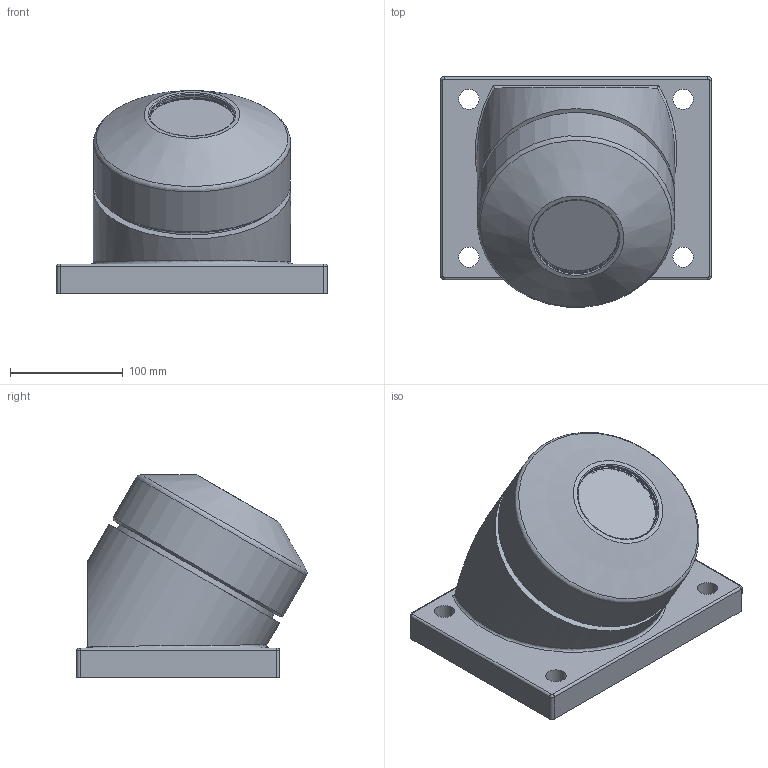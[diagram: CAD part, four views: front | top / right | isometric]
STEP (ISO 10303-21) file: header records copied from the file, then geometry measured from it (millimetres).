
FILE_DESCRIPTION(/* description */ (''),/* implementation_level */ '2;1');
FILE_NAME(/* name */ 'Z:\34-Tei\01-web 3Dデータ\SW車輪\SW-180-I.stp',/* time_stamp */ '2015-03-17T16:47:38+09:00',/* author */ ('yamaki'),/* organization */ (''),/* preprocessor_version */ 'ST-DEVELOPER v15.6',/* originating_system */ 'Autodesk Inventor 2015',/* authorisation */ '');
FILE_SCHEMA (('AUTOMOTIVE_DESIGN { 1 0 10303 214 3 1 1 }'));
Length unit declared in the file: centimetre
Products named in the file (1): SW-180-I
Bounding box: 240 x 204.54 x 179.93 mm (x, y, z)
Volume: 3052767.3 mm3; surface area: 311424.9 mm2
Topology: 1 solids, 3 shells, 102 faces, 206 edges, 132 vertices
Faces by surface type: cylinder 40, plane 34, cone 15, bspline 7, torus 6
Full cylindrical faces by diameter (mm): 5 x1, 8 x1, 18 x4, 30 x1, 35 x2, 38 x2, 45 x1, 46 x1, 56 x1, 64 x2, 65 x1, 72 x1, 72.1 x1, 73 x1, 75 x1, 75.5 x2, 78 x1, 90 x1, 135.1 x1, 137 x1, 138 x1, 175 x2
Entity records: 2913 total; most frequent: CARTESIAN_POINT 853, DIRECTION 424, ORIENTED_EDGE 282, AXIS2_PLACEMENT_3D 201, EDGE_LOOP 188, EDGE_CURVE 141, VERTEX_POINT 119, STYLED_ITEM 103
